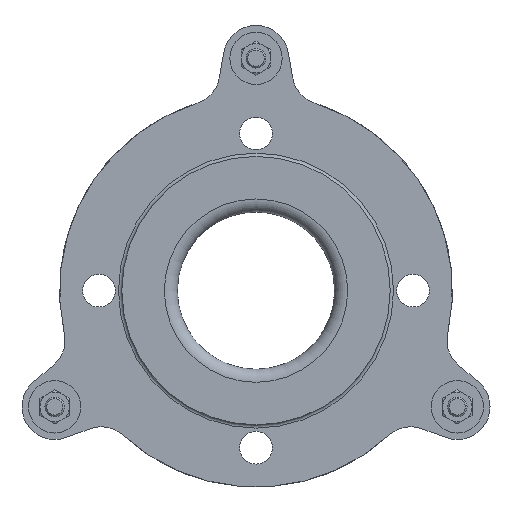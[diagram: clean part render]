
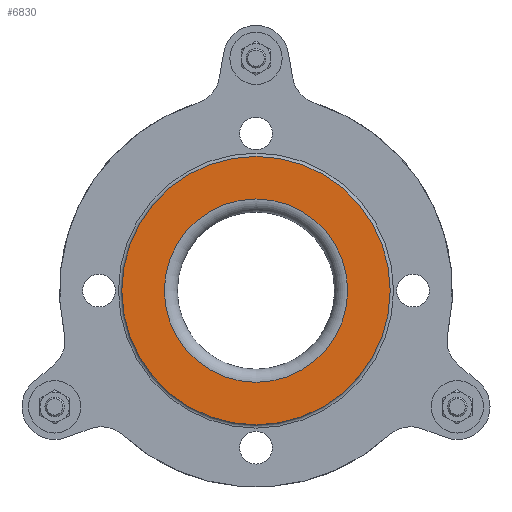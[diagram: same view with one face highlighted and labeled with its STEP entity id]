
A CAD part, left-side view. The second image highlights one B-rep face of the part: STEP entity #6830.
In plain terms, the highlighted planar face has unit normal (-1, 0, 0).
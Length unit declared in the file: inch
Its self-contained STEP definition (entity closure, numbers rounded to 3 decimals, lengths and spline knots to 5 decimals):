
#1151=FACE_BOUND('',#2139,.T.);
#1537=FACE_OUTER_BOUND('',#2138,.T.);
#2138=EDGE_LOOP('',(#5497));
#2139=EDGE_LOOP('',(#5498));
#2577=CIRCLE('',#7597,2.5625);
#2578=CIRCLE('',#7599,1.75);
#3104=VERTEX_POINT('',#11872);
#3105=VERTEX_POINT('',#11875);
#3916=EDGE_CURVE('',#3104,#3104,#2577,.T.);
#3917=EDGE_CURVE('',#3105,#3105,#2578,.T.);
#5497=ORIENTED_EDGE('',*,*,#3916,.T.);
#5498=ORIENTED_EDGE('',*,*,#3917,.F.);
#5999=PLANE('',#7598);
#6830=ADVANCED_FACE('',(#1537,#1151),#5999,.T.);
#7597=AXIS2_PLACEMENT_3D('',#11873,#9238,#9239);
#7598=AXIS2_PLACEMENT_3D('',#11874,#9240,#9241);
#7599=AXIS2_PLACEMENT_3D('',#11876,#9242,#9243);
#9238=DIRECTION('center_axis',(-1.,0.,0.));
#9239=DIRECTION('ref_axis',(0.,-1.,0.));
#9240=DIRECTION('center_axis',(-1.,0.,0.));
#9241=DIRECTION('ref_axis',(0.,-1.,0.));
#9242=DIRECTION('center_axis',(-1.,0.,0.));
#9243=DIRECTION('ref_axis',(0.,-1.,0.));
#11872=CARTESIAN_POINT('',(-1.75,0.,2.5625));
#11873=CARTESIAN_POINT('Origin',(-1.75,0.,0.));
#11874=CARTESIAN_POINT('Origin',(-1.75,0.,1.75));
#11875=CARTESIAN_POINT('',(-1.75,0.,1.75));
#11876=CARTESIAN_POINT('Origin',(-1.75,0.,0.));
